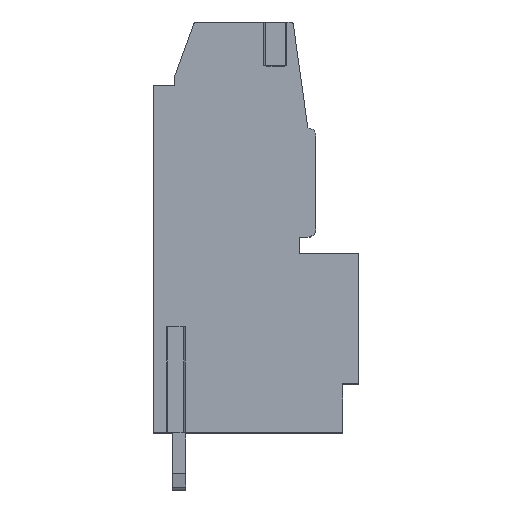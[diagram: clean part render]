
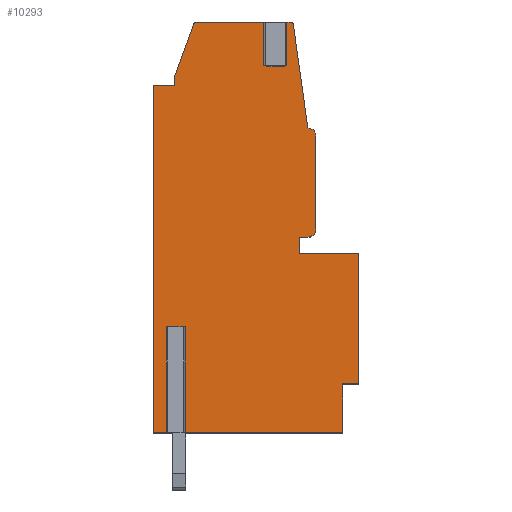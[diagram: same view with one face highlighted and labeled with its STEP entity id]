
A CAD part, top view. The second image highlights one B-rep face of the part: STEP entity #10293.
In plain terms, the highlighted planar face has unit normal (0, 0, 1).
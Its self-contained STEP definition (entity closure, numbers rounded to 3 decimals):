
#2251=DIRECTION('',(0.,-1.,0.));
#2252=VECTOR('',#2251,6.5);
#2253=CARTESIAN_POINT('',(1.979,6.5,-0.57));
#2254=LINE('',#2253,#2252);
#2259=DIRECTION('',(-1.,0.,0.));
#2260=VECTOR('',#2259,1.158);
#2261=CARTESIAN_POINT('',(1.979,6.5,-0.57));
#2262=LINE('',#2261,#2260);
#2263=DIRECTION('',(-1.,0.,0.));
#2264=VECTOR('',#2263,0.821);
#2265=CARTESIAN_POINT('',(0.821,0.,-0.57));
#2266=LINE('',#2265,#2264);
#2267=DIRECTION('',(0.,1.,0.));
#2268=VECTOR('',#2267,21.3);
#2269=CARTESIAN_POINT('',(0.,0.,-0.57));
#2270=LINE('',#2269,#2268);
#2271=DIRECTION('',(0.,1.,0.));
#2272=VECTOR('',#2271,0.5);
#2273=CARTESIAN_POINT('',(1.3,21.3,-0.57));
#2274=LINE('',#2273,#2272);
#2275=DIRECTION('',(0.342,0.94,0.));
#2276=VECTOR('',#2275,3.478);
#2277=CARTESIAN_POINT('',(1.3,21.8,-0.57));
#2278=LINE('',#2277,#2276);
#2279=CARTESIAN_POINT('',(2.678,25.,-0.57));
#2280=DIRECTION('',(0.,0.,-1.));
#2281=DIRECTION('',(-0.94,0.342,0.));
#2282=AXIS2_PLACEMENT_3D('',#2279,#2280,#2281);
#2284=DIRECTION('',(1.,0.,0.));
#2285=VECTOR('',#2284,4.301);
#2286=CARTESIAN_POINT('',(2.678,25.2,-0.57));
#2287=LINE('',#2286,#2285);
#2288=DIRECTION('',(1.,0.,0.));
#2289=VECTOR('',#2288,1.042);
#2290=CARTESIAN_POINT('',(6.979,22.5,-0.57));
#2291=LINE('',#2290,#2289);
#2292=DIRECTION('',(1.,0.,0.));
#2293=VECTOR('',#2292,0.392);
#2294=CARTESIAN_POINT('',(8.021,25.2,-0.57));
#2295=LINE('',#2294,#2293);
#2296=CARTESIAN_POINT('',(8.413,25.,-0.57));
#2297=DIRECTION('',(0.,0.,-1.));
#2298=DIRECTION('',(0.,1.,0.));
#2299=AXIS2_PLACEMENT_3D('',#2296,#2297,#2298);
#2301=DIRECTION('',(0.139,-0.99,0.));
#2302=VECTOR('',#2301,6.39);
#2303=CARTESIAN_POINT('',(8.611,25.028,-0.57));
#2304=LINE('',#2303,#2302);
#2305=CARTESIAN_POINT('',(9.5,18.2,-0.57));
#2306=DIRECTION('',(0.,0.,-1.));
#2307=DIRECTION('',(0.,1.,0.));
#2308=AXIS2_PLACEMENT_3D('',#2305,#2306,#2307);
#2310=DIRECTION('',(0.,-1.,0.));
#2311=VECTOR('',#2310,5.7);
#2312=CARTESIAN_POINT('',(10.,18.2,-0.57));
#2313=LINE('',#2312,#2311);
#2314=CARTESIAN_POINT('',(9.5,12.5,-0.57));
#2315=DIRECTION('',(0.,0.,-1.));
#2316=DIRECTION('',(1.,0.,0.));
#2317=AXIS2_PLACEMENT_3D('',#2314,#2315,#2316);
#2319=DIRECTION('',(-1.,0.,0.));
#2320=VECTOR('',#2319,0.5);
#2321=CARTESIAN_POINT('',(9.5,12.,-0.57));
#2322=LINE('',#2321,#2320);
#2323=DIRECTION('',(0.,-1.,0.));
#2324=VECTOR('',#2323,1.);
#2325=CARTESIAN_POINT('',(9.,12.,-0.57));
#2326=LINE('',#2325,#2324);
#2327=DIRECTION('',(1.,0.,0.));
#2328=VECTOR('',#2327,3.64);
#2329=CARTESIAN_POINT('',(9.,11.,-0.57));
#2330=LINE('',#2329,#2328);
#2331=DIRECTION('',(0.,-1.,0.));
#2332=VECTOR('',#2331,8.);
#2333=CARTESIAN_POINT('',(12.64,11.,-0.57));
#2334=LINE('',#2333,#2332);
#2335=DIRECTION('',(-1.,0.,0.));
#2336=VECTOR('',#2335,1.);
#2337=CARTESIAN_POINT('',(12.64,3.,-0.57));
#2338=LINE('',#2337,#2336);
#2339=DIRECTION('',(0.,-1.,0.));
#2340=VECTOR('',#2339,3.);
#2341=CARTESIAN_POINT('',(11.64,3.,-0.57));
#2342=LINE('',#2341,#2340);
#2343=DIRECTION('',(-1.,0.,0.));
#2344=VECTOR('',#2343,9.661);
#2345=CARTESIAN_POINT('',(11.64,0.,-0.57));
#2346=LINE('',#2345,#2344);
#2399=DIRECTION('',(0.,1.,0.));
#2400=VECTOR('',#2399,6.5);
#2401=CARTESIAN_POINT('',(0.821,0.,-0.57));
#2402=LINE('',#2401,#2400);
#2419=DIRECTION('',(-1.,0.,0.));
#2420=VECTOR('',#2419,1.3);
#2421=CARTESIAN_POINT('',(1.3,21.3,-0.57));
#2422=LINE('',#2421,#2420);
#2879=DIRECTION('',(0.,1.,0.));
#2880=VECTOR('',#2879,2.7);
#2881=CARTESIAN_POINT('',(6.979,22.5,-0.57));
#2882=LINE('',#2881,#2880);
#2907=DIRECTION('',(0.,-1.,0.));
#2908=VECTOR('',#2907,2.7);
#2909=CARTESIAN_POINT('',(8.021,25.2,-0.57));
#2910=LINE('',#2909,#2908);
#6545=CARTESIAN_POINT('',(1.979,6.5,-0.57));
#6546=CARTESIAN_POINT('',(0.821,6.5,-0.57));
#6547=VERTEX_POINT('',#6545);
#6548=VERTEX_POINT('',#6546);
#6549=CARTESIAN_POINT('',(0.821,0.,-0.57));
#6550=VERTEX_POINT('',#6549);
#6551=CARTESIAN_POINT('',(0.,0.,-0.57));
#6552=VERTEX_POINT('',#6551);
#6553=CARTESIAN_POINT('',(0.,21.3,-0.57));
#6554=VERTEX_POINT('',#6553);
#6555=CARTESIAN_POINT('',(1.3,21.3,-0.57));
#6556=VERTEX_POINT('',#6555);
#6557=CARTESIAN_POINT('',(1.3,21.8,-0.57));
#6558=VERTEX_POINT('',#6557);
#6559=CARTESIAN_POINT('',(2.49,25.068,-0.57));
#6560=VERTEX_POINT('',#6559);
#6561=CARTESIAN_POINT('',(2.678,25.2,-0.57));
#6562=VERTEX_POINT('',#6561);
#6563=CARTESIAN_POINT('',(6.979,25.2,-0.57));
#6564=VERTEX_POINT('',#6563);
#6565=CARTESIAN_POINT('',(6.979,22.5,-0.57));
#6566=VERTEX_POINT('',#6565);
#6567=CARTESIAN_POINT('',(8.021,22.5,-0.57));
#6568=VERTEX_POINT('',#6567);
#6569=CARTESIAN_POINT('',(8.021,25.2,-0.57));
#6570=VERTEX_POINT('',#6569);
#6571=CARTESIAN_POINT('',(8.413,25.2,-0.57));
#6572=VERTEX_POINT('',#6571);
#6573=CARTESIAN_POINT('',(8.611,25.028,-0.57));
#6574=VERTEX_POINT('',#6573);
#6575=CARTESIAN_POINT('',(9.5,18.7,-0.57));
#6576=VERTEX_POINT('',#6575);
#6577=CARTESIAN_POINT('',(10.,18.2,-0.57));
#6578=VERTEX_POINT('',#6577);
#6579=CARTESIAN_POINT('',(10.,12.5,-0.57));
#6580=VERTEX_POINT('',#6579);
#6581=CARTESIAN_POINT('',(9.5,12.,-0.57));
#6582=VERTEX_POINT('',#6581);
#6583=CARTESIAN_POINT('',(9.,12.,-0.57));
#6584=VERTEX_POINT('',#6583);
#6585=CARTESIAN_POINT('',(9.,11.,-0.57));
#6586=VERTEX_POINT('',#6585);
#6587=CARTESIAN_POINT('',(12.64,11.,-0.57));
#6588=VERTEX_POINT('',#6587);
#6589=CARTESIAN_POINT('',(12.64,3.,-0.57));
#6590=VERTEX_POINT('',#6589);
#6591=CARTESIAN_POINT('',(11.64,3.,-0.57));
#6592=VERTEX_POINT('',#6591);
#6593=CARTESIAN_POINT('',(11.64,0.,-0.57));
#6594=VERTEX_POINT('',#6593);
#6595=CARTESIAN_POINT('',(1.979,0.,-0.57));
#6596=VERTEX_POINT('',#6595);
#10242=CARTESIAN_POINT('',(5.3,0.,-0.57));
#10243=DIRECTION('',(0.,0.,1.));
#10244=DIRECTION('',(1.,0.,0.));
#10245=AXIS2_PLACEMENT_3D('',#10242,#10243,#10244);
#10246=PLANE('',#10245);
#10248=ORIENTED_EDGE('',*,*,#10247,.T.);
#10250=ORIENTED_EDGE('',*,*,#10249,.F.);
#10251=ORIENTED_EDGE('',*,*,#10060,.T.);
#10253=ORIENTED_EDGE('',*,*,#10252,.T.);
#10255=ORIENTED_EDGE('',*,*,#10254,.F.);
#10256=ORIENTED_EDGE('',*,*,#9639,.T.);
#10257=ORIENTED_EDGE('',*,*,#9589,.T.);
#10258=ORIENTED_EDGE('',*,*,#9575,.T.);
#10259=ORIENTED_EDGE('',*,*,#9370,.T.);
#10261=ORIENTED_EDGE('',*,*,#10260,.F.);
#10263=ORIENTED_EDGE('',*,*,#10262,.T.);
#10265=ORIENTED_EDGE('',*,*,#10264,.F.);
#10266=ORIENTED_EDGE('',*,*,#9354,.T.);
#10268=ORIENTED_EDGE('',*,*,#10267,.T.);
#10270=ORIENTED_EDGE('',*,*,#10269,.T.);
#10272=ORIENTED_EDGE('',*,*,#10271,.T.);
#10274=ORIENTED_EDGE('',*,*,#10273,.T.);
#10276=ORIENTED_EDGE('',*,*,#10275,.T.);
#10278=ORIENTED_EDGE('',*,*,#10277,.T.);
#10280=ORIENTED_EDGE('',*,*,#10279,.T.);
#10282=ORIENTED_EDGE('',*,*,#10281,.T.);
#10284=ORIENTED_EDGE('',*,*,#10283,.T.);
#10286=ORIENTED_EDGE('',*,*,#10285,.T.);
#10288=ORIENTED_EDGE('',*,*,#10287,.T.);
#10289=ORIENTED_EDGE('',*,*,#10024,.T.);
#10290=ORIENTED_EDGE('',*,*,#10232,.F.);
#10291=EDGE_LOOP('',(#10248,#10250,#10251,#10253,#10255,#10256,#10257,#10258,
#10259,#10261,#10263,#10265,#10266,#10268,#10270,#10272,#10274,#10276,#10278,
#10280,#10282,#10284,#10286,#10288,#10289,#10290));
#10292=FACE_OUTER_BOUND('',#10291,.F.);
#10293=ADVANCED_FACE('',(#10292),#10246,.T.);
#2283=CIRCLE('',#2282,0.2);
#2300=CIRCLE('',#2299,0.2);
#2309=CIRCLE('',#2308,0.5);
#2318=CIRCLE('',#2317,0.5);
#9354=EDGE_CURVE('',#6570,#6572,#2295,.T.);
#9370=EDGE_CURVE('',#6562,#6564,#2287,.T.);
#9575=EDGE_CURVE('',#6560,#6562,#2283,.T.);
#9589=EDGE_CURVE('',#6558,#6560,#2278,.T.);
#9639=EDGE_CURVE('',#6556,#6558,#2274,.T.);
#10024=EDGE_CURVE('',#6594,#6596,#2346,.T.);
#10060=EDGE_CURVE('',#6550,#6552,#2266,.T.);
#10232=EDGE_CURVE('',#6547,#6596,#2254,.T.);
#10247=EDGE_CURVE('',#6547,#6548,#2262,.T.);
#10249=EDGE_CURVE('',#6550,#6548,#2402,.T.);
#10252=EDGE_CURVE('',#6552,#6554,#2270,.T.);
#10254=EDGE_CURVE('',#6556,#6554,#2422,.T.);
#10260=EDGE_CURVE('',#6566,#6564,#2882,.T.);
#10262=EDGE_CURVE('',#6566,#6568,#2291,.T.);
#10264=EDGE_CURVE('',#6570,#6568,#2910,.T.);
#10267=EDGE_CURVE('',#6572,#6574,#2300,.T.);
#10269=EDGE_CURVE('',#6574,#6576,#2304,.T.);
#10271=EDGE_CURVE('',#6576,#6578,#2309,.T.);
#10273=EDGE_CURVE('',#6578,#6580,#2313,.T.);
#10275=EDGE_CURVE('',#6580,#6582,#2318,.T.);
#10277=EDGE_CURVE('',#6582,#6584,#2322,.T.);
#10279=EDGE_CURVE('',#6584,#6586,#2326,.T.);
#10281=EDGE_CURVE('',#6586,#6588,#2330,.T.);
#10283=EDGE_CURVE('',#6588,#6590,#2334,.T.);
#10285=EDGE_CURVE('',#6590,#6592,#2338,.T.);
#10287=EDGE_CURVE('',#6592,#6594,#2342,.T.);
